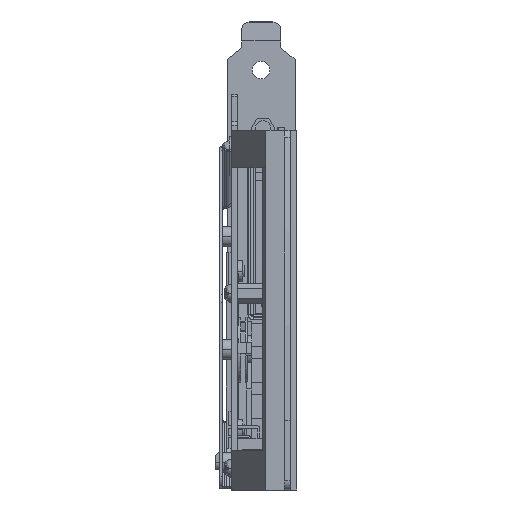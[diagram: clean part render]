
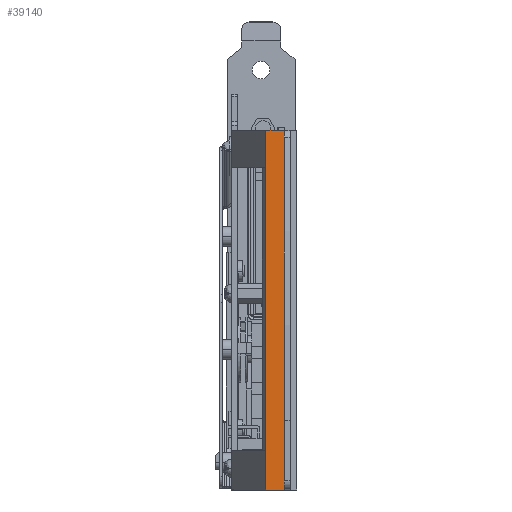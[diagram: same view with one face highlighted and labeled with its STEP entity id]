
A CAD part, front view. The second image highlights one B-rep face of the part: STEP entity #39140.
In plain terms, the highlighted planar face has unit normal (0, -1, 0).
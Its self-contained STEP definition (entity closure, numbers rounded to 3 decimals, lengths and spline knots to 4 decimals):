
#2838=DIRECTION('',(1.,0.,0.));
#2839=VECTOR('',#2838,0.198);
#2840=CARTESIAN_POINT('',(-0.311,-12.949,3.575));
#2841=LINE('',#2840,#2839);
#2931=DIRECTION('',(1.,0.,0.));
#2932=VECTOR('',#2931,0.198);
#2933=CARTESIAN_POINT('',(-0.311,-12.949,-0.25));
#2934=LINE('',#2933,#2932);
#3007=DIRECTION('',(0.,0.,1.));
#3008=VECTOR('',#3007,3.825);
#3009=CARTESIAN_POINT('',(-0.311,-12.949,-0.25));
#3010=LINE('',#3009,#3008);
#3026=DIRECTION('',(0.,0.,1.));
#3027=VECTOR('',#3026,3.825);
#3028=CARTESIAN_POINT('',(-0.113,-12.949,-0.25));
#3029=LINE('',#3028,#3027);
#36888=CARTESIAN_POINT('',(-0.311,-12.949,-0.25));
#36889=VERTEX_POINT('',#36888);
#36890=CARTESIAN_POINT('',(-0.113,-12.949,-0.25));
#36891=VERTEX_POINT('',#36890);
#36908=CARTESIAN_POINT('',(-0.311,-12.949,3.575));
#36909=VERTEX_POINT('',#36908);
#36910=CARTESIAN_POINT('',(-0.113,-12.949,3.575));
#36911=VERTEX_POINT('',#36910);
#39128=CARTESIAN_POINT('',(-0.311,-12.949,-0.25));
#39129=DIRECTION('',(0.,-1.,0.));
#39130=DIRECTION('',(1.,0.,0.));
#39131=AXIS2_PLACEMENT_3D('',#39128,#39129,#39130);
#39132=PLANE('',#39131);
#39133=ORIENTED_EDGE('',*,*,#39061,.F.);
#39134=ORIENTED_EDGE('',*,*,#39106,.T.);
#39135=ORIENTED_EDGE('',*,*,#38855,.T.);
#39137=ORIENTED_EDGE('',*,*,#39136,.F.);
#39138=EDGE_LOOP('',(#39133,#39134,#39135,#39137));
#39139=FACE_OUTER_BOUND('',#39138,.F.);
#39140=ADVANCED_FACE('',(#39139),#39132,.T.);
#38855=EDGE_CURVE('',#36909,#36911,#2841,.T.);
#39061=EDGE_CURVE('',#36889,#36891,#2934,.T.);
#39106=EDGE_CURVE('',#36889,#36909,#3010,.T.);
#39136=EDGE_CURVE('',#36891,#36911,#3029,.T.);
